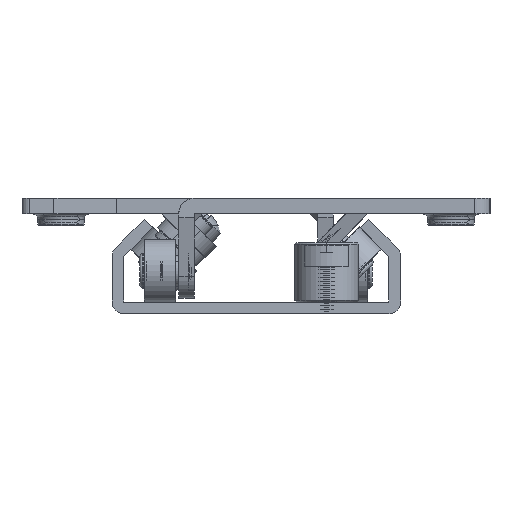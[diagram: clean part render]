
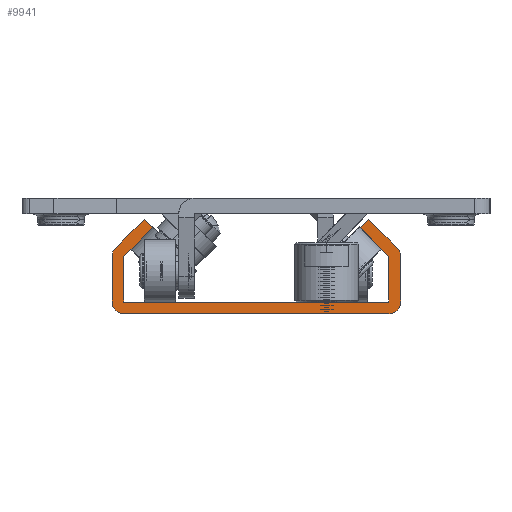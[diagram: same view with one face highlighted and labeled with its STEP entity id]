
A CAD part, left-side view. The second image highlights one B-rep face of the part: STEP entity #9941.
In plain terms, the highlighted planar face has unit normal (-1, 0, 0).
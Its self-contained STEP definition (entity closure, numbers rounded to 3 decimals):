
#9802=CARTESIAN_POINT('',(6.032,-461.972,-18.688));
#9803=VERTEX_POINT('',#9802);
#9804=CARTESIAN_POINT('',(6.032,-460.912,-17.627));
#9805=VERTEX_POINT('',#9804);
#9806=CARTESIAN_POINT('',(6.032,-460.823,-17.539));
#9807=DIRECTION('',(0.,0.707,0.707));
#9808=VECTOR('',#9807,1.);
#9809=LINE('',#9806,#9808);
#9810=EDGE_CURVE('',#9803,#9805,#9809,.T.);
#9811=ORIENTED_EDGE('',*,*,#9810,.T.);
#9812=CARTESIAN_POINT('',(6.032,-457.23,-21.309));
#9813=VERTEX_POINT('',#9812);
#9814=CARTESIAN_POINT('',(6.032,-461.124,-17.415));
#9815=DIRECTION('',(0.,-0.707,0.707));
#9816=VECTOR('',#9815,1.);
#9817=LINE('',#9814,#9816);
#9818=EDGE_CURVE('',#9813,#9805,#9817,.T.);
#9819=ORIENTED_EDGE('',*,*,#9818,.F.);
#9820=CARTESIAN_POINT('',(6.032,-456.79,-22.37));
#9821=VERTEX_POINT('',#9820);
#9822=CARTESIAN_POINT('',(6.032,-458.29,-22.37));
#9823=DIRECTION('',(1.,0.,0.));
#9824=DIRECTION('',(0.,0.,1.));
#9825=AXIS2_PLACEMENT_3D('',#9822,#9823,#9824);
#9826=CIRCLE('',#9825,1.5);
#9827=EDGE_CURVE('',#9821,#9813,#9826,.T.);
#9828=ORIENTED_EDGE('',*,*,#9827,.F.);
#9829=CARTESIAN_POINT('',(6.032,-456.79,-28.214));
#9830=VERTEX_POINT('',#9829);
#9831=CARTESIAN_POINT('',(6.032,-456.79,-28.214));
#9832=DIRECTION('',(0.,0.,1.));
#9833=VECTOR('',#9832,1.);
#9834=LINE('',#9831,#9833);
#9835=EDGE_CURVE('',#9830,#9821,#9834,.T.);
#9836=ORIENTED_EDGE('',*,*,#9835,.F.);
#9837=CARTESIAN_POINT('',(6.032,-458.29,-29.714));
#9838=VERTEX_POINT('',#9837);
#9839=CARTESIAN_POINT('',(6.032,-458.29,-28.214));
#9840=DIRECTION('',(1.,0.,0.));
#9841=DIRECTION('',(0.,1.,0.));
#9842=AXIS2_PLACEMENT_3D('',#9839,#9840,#9841);
#9843=CIRCLE('',#9842,1.5);
#9844=EDGE_CURVE('',#9838,#9830,#9843,.T.);
#9845=ORIENTED_EDGE('',*,*,#9844,.F.);
#9846=CARTESIAN_POINT('',(6.032,-492.29,-29.714));
#9847=VERTEX_POINT('',#9846);
#9848=CARTESIAN_POINT('',(6.032,-492.29,-29.714));
#9849=DIRECTION('',(0.,1.,0.));
#9850=VECTOR('',#9849,1.);
#9851=LINE('',#9848,#9850);
#9852=EDGE_CURVE('',#9847,#9838,#9851,.T.);
#9853=ORIENTED_EDGE('',*,*,#9852,.F.);
#9854=CARTESIAN_POINT('',(6.032,-493.79,-28.214));
#9855=VERTEX_POINT('',#9854);
#9856=CARTESIAN_POINT('',(6.032,-492.29,-28.214));
#9857=DIRECTION('',(1.,0.,0.));
#9858=DIRECTION('',(0.,1.,0.));
#9859=AXIS2_PLACEMENT_3D('',#9856,#9857,#9858);
#9860=CIRCLE('',#9859,1.5);
#9861=EDGE_CURVE('',#9855,#9847,#9860,.T.);
#9862=ORIENTED_EDGE('',*,*,#9861,.F.);
#9863=CARTESIAN_POINT('',(6.032,-493.79,-22.37));
#9864=VERTEX_POINT('',#9863);
#9865=CARTESIAN_POINT('',(6.032,-493.79,-28.214));
#9866=DIRECTION('',(0.,0.,-1.));
#9867=VECTOR('',#9866,1.);
#9868=LINE('',#9865,#9867);
#9869=EDGE_CURVE('',#9864,#9855,#9868,.T.);
#9870=ORIENTED_EDGE('',*,*,#9869,.F.);
#9871=CARTESIAN_POINT('',(6.032,-493.351,-21.309));
#9872=VERTEX_POINT('',#9871);
#9873=CARTESIAN_POINT('',(6.032,-492.29,-22.37));
#9874=DIRECTION('',(1.,0.,0.));
#9875=DIRECTION('',(0.,0.,1.));
#9876=AXIS2_PLACEMENT_3D('',#9873,#9874,#9875);
#9877=CIRCLE('',#9876,1.5);
#9878=EDGE_CURVE('',#9872,#9864,#9877,.T.);
#9879=ORIENTED_EDGE('',*,*,#9878,.F.);
#9880=CARTESIAN_POINT('',(6.032,-489.669,-17.627));
#9881=VERTEX_POINT('',#9880);
#9882=CARTESIAN_POINT('',(6.032,-489.457,-17.415));
#9883=DIRECTION('',(0.,-0.707,-0.707));
#9884=VECTOR('',#9883,1.);
#9885=LINE('',#9882,#9884);
#9886=EDGE_CURVE('',#9881,#9872,#9885,.T.);
#9887=ORIENTED_EDGE('',*,*,#9886,.F.);
#9888=CARTESIAN_POINT('',(6.032,-488.608,-18.688));
#9889=VERTEX_POINT('',#9888);
#9890=CARTESIAN_POINT('',(6.032,-482.939,-24.357));
#9891=DIRECTION('',(0.,0.707,-0.707));
#9892=VECTOR('',#9891,1.);
#9893=LINE('',#9890,#9892);
#9894=EDGE_CURVE('',#9881,#9889,#9893,.T.);
#9895=ORIENTED_EDGE('',*,*,#9894,.T.);
#9896=CARTESIAN_POINT('',(6.032,-492.29,-22.37));
#9897=VERTEX_POINT('',#9896);
#9898=CARTESIAN_POINT('',(6.032,-488.396,-18.475));
#9899=DIRECTION('',(0.,0.707,0.707));
#9900=VECTOR('',#9899,1.);
#9901=LINE('',#9898,#9900);
#9902=EDGE_CURVE('',#9897,#9889,#9901,.T.);
#9903=ORIENTED_EDGE('',*,*,#9902,.F.);
#9904=CARTESIAN_POINT('',(6.032,-492.29,-28.214));
#9905=VERTEX_POINT('',#9904);
#9906=CARTESIAN_POINT('',(6.032,-492.29,-28.214));
#9907=DIRECTION('',(0.,0.,1.));
#9908=VECTOR('',#9907,1.);
#9909=LINE('',#9906,#9908);
#9910=EDGE_CURVE('',#9905,#9897,#9909,.T.);
#9911=ORIENTED_EDGE('',*,*,#9910,.F.);
#9912=CARTESIAN_POINT('',(6.032,-458.29,-28.214));
#9913=VERTEX_POINT('',#9912);
#9914=CARTESIAN_POINT('',(6.032,-492.29,-28.214));
#9915=DIRECTION('',(0.,-1.,0.));
#9916=VECTOR('',#9915,1.);
#9917=LINE('',#9914,#9916);
#9918=EDGE_CURVE('',#9913,#9905,#9917,.T.);
#9919=ORIENTED_EDGE('',*,*,#9918,.F.);
#9920=CARTESIAN_POINT('',(6.032,-458.29,-22.37));
#9921=VERTEX_POINT('',#9920);
#9922=CARTESIAN_POINT('',(6.032,-458.29,-28.214));
#9923=DIRECTION('',(0.,0.,-1.));
#9924=VECTOR('',#9923,1.);
#9925=LINE('',#9922,#9924);
#9926=EDGE_CURVE('',#9921,#9913,#9925,.T.);
#9927=ORIENTED_EDGE('',*,*,#9926,.F.);
#9928=CARTESIAN_POINT('',(6.032,-462.184,-18.475));
#9929=DIRECTION('',(0.,0.707,-0.707));
#9930=VECTOR('',#9929,1.);
#9931=LINE('',#9928,#9930);
#9932=EDGE_CURVE('',#9803,#9921,#9931,.T.);
#9933=ORIENTED_EDGE('',*,*,#9932,.F.);
#9934=EDGE_LOOP('',(#9811,#9819,#9828,#9836,#9845,#9853,#9862,#9870,#9879,#9887,#9895,#9903,#9911,#9919,#9927,#9933));
#9935=FACE_OUTER_BOUND('',#9934,.T.);
#9936=CARTESIAN_POINT('',(6.032,-461.654,-17.945));
#9937=DIRECTION('',(-1.,0.,0.));
#9938=DIRECTION('',(0.,1.,0.));
#9939=AXIS2_PLACEMENT_3D('',#9936,#9937,#9938);
#9940=PLANE('',#9939);
#9941=ADVANCED_FACE('',(#9935),#9940,.T.);
